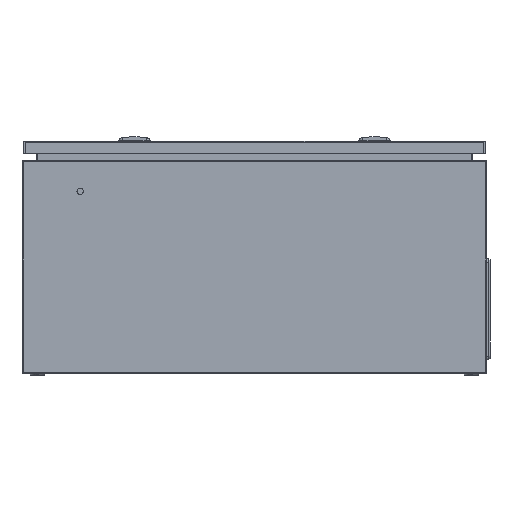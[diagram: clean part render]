
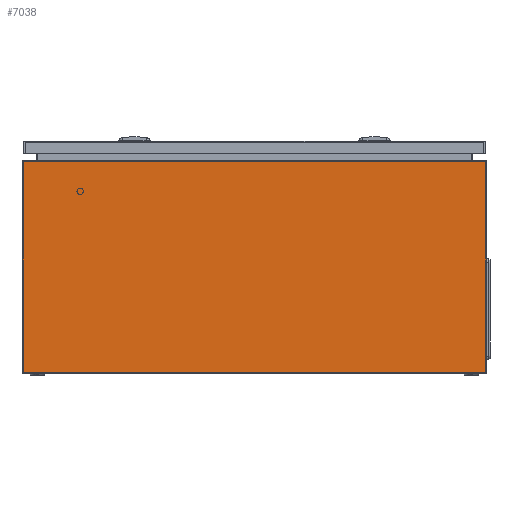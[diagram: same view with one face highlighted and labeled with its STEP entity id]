
A CAD part, left-side view. The second image highlights one B-rep face of the part: STEP entity #7038.
In plain terms, the highlighted planar face has unit normal (-1, 0, 0).
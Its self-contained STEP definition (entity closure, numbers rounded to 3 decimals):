
#552=ORIENTED_EDGE('',*,*,#2512,.T.);
#553=ORIENTED_EDGE('',*,*,#2498,.F.);
#554=ORIENTED_EDGE('',*,*,#2513,.F.);
#555=ORIENTED_EDGE('',*,*,#2514,.T.);
#2498=EDGE_CURVE('',#3477,#3478,#4172,.T.);
#2512=EDGE_CURVE('',#3487,#3478,#4186,.T.);
#2513=EDGE_CURVE('',#3488,#3477,#4187,.T.);
#2514=EDGE_CURVE('',#3488,#3487,#4188,.T.);
#3477=VERTEX_POINT('',#10897);
#3478=VERTEX_POINT('',#10899);
#3487=VERTEX_POINT('',#10927);
#3488=VERTEX_POINT('',#10929);
#4172=LINE('',#10898,#4866);
#4186=LINE('',#10926,#4880);
#4187=LINE('',#10928,#4881);
#4188=LINE('',#10930,#4882);
#4866=VECTOR('',#8771,1000.);
#4880=VECTOR('',#8795,1000.);
#4881=VECTOR('',#8796,1000.);
#4882=VECTOR('',#8797,1000.);
#5548=EDGE_LOOP('',(#552,#553,#554,#555));
#6146=FACE_BOUND('',#5548,.T.);
#6743=PLANE('',#8032);
#7038=ADVANCED_FACE('',(#6146),#6743,.F.);
#8032=AXIS2_PLACEMENT_3D('',#10925,#8793,#8794);
#8771=DIRECTION('',(0.,-1.,0.));
#8793=DIRECTION('',(1.,0.,0.));
#8794=DIRECTION('',(0.,0.,-1.));
#8795=DIRECTION('',(0.,0.,1.));
#8796=DIRECTION('',(0.,0.,1.));
#8797=DIRECTION('',(0.,-1.,0.));
#10897=CARTESIAN_POINT('',(-200.,600.,125.2));
#10898=CARTESIAN_POINT('',(-200.,600.,125.2));
#10899=CARTESIAN_POINT('',(-200.,0.,125.2));
#10925=CARTESIAN_POINT('',(-200.,600.,-150.));
#10926=CARTESIAN_POINT('',(-200.,0.,-150.));
#10927=CARTESIAN_POINT('',(-200.,0.,-150.));
#10928=CARTESIAN_POINT('',(-200.,600.,-150.));
#10929=CARTESIAN_POINT('',(-200.,600.,-150.));
#10930=CARTESIAN_POINT('',(-200.,600.,-150.));
